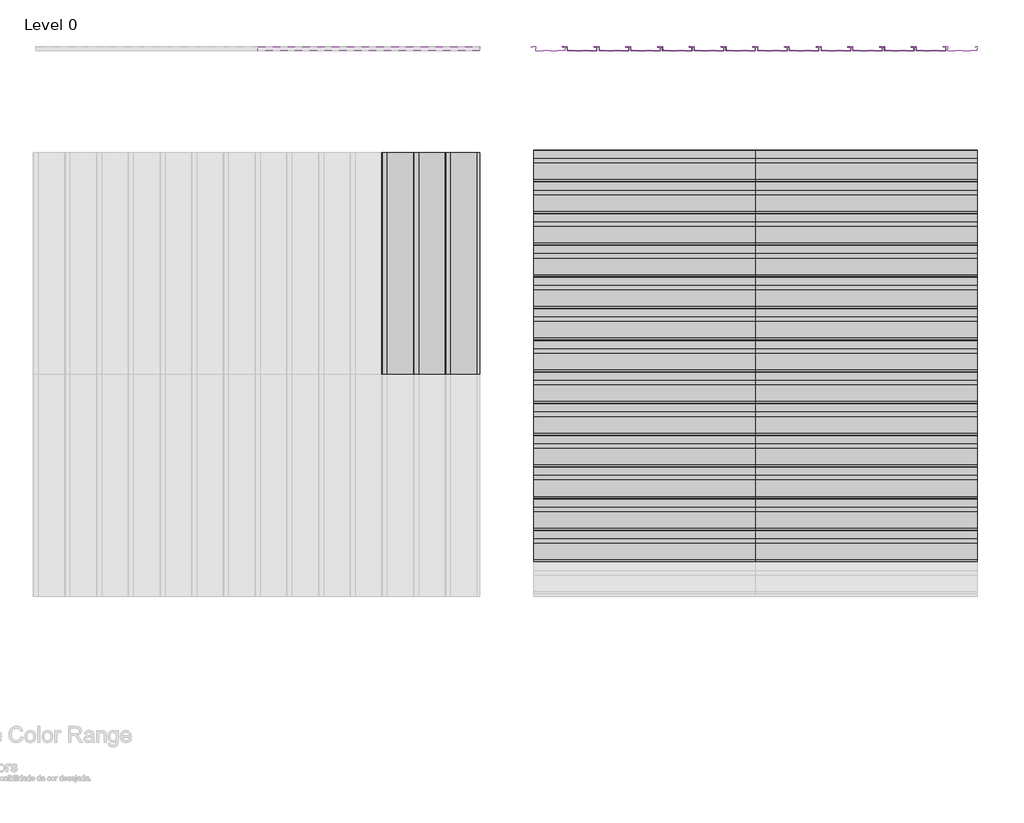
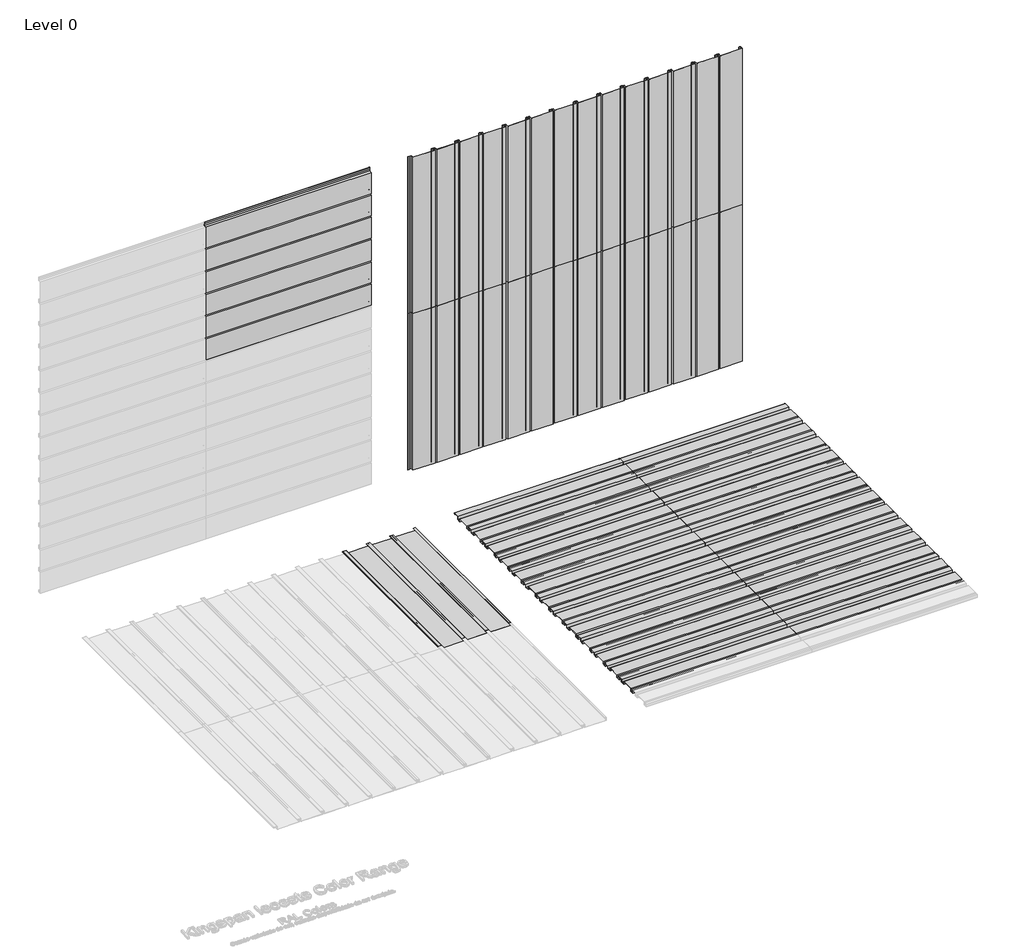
# One storey, part 2 of 2: 63 proxies.
"""IFC4 building model written with IfcOpenShell, lengths in millimetres."""

from ifc_helpers import new_model, si_unit, origin, place, context, project, spatial, transform, mapped, element, save
from components import mx4_0_standard_panel_ns_1fe548eb, mx7_0_standard_panel_ns_a6cb7541, mx7_0_standard_panel_ns_ed4f422e

model = new_model("IFC4")

# Units and contexts
model_context = context("Model", 3, world=origin())
ifc_project = project(units=[si_unit("LENGTHUNIT", "METRE", prefix="MILLI")], contexts=[model_context])

# Site, building, storey
site = spatial("IfcSite", under=ifc_project)
building = spatial("IfcBuilding", under=site)
storey = spatial("IfcBuildingStorey", under=building, Name="Level 0", Elevation=0.0)

# Proxies
placement = place(None, origin())
mx4_0_standard_panel_ns_shape = mx4_0_standard_panel_ns_1fe548eb(model_context)
element("IfcBuildingElementProxy", 1, Name="MX4.0 : Standard Panel_NS", ObjectType="MX4.0 : Standard Panel_NS", at=placement, inside=storey, context=model_context, shape_type="MappedRepresentation", body=[
    mapped(mx4_0_standard_panel_ns_shape, transform((1289.7088668, 758.3113453, 0.0), x_axis=(1.0, 0.0, 0.0), y_axis=(0.0, 1.0, 0.0), z_axis=(0.0, 0.0, 1.0))),
])
element("IfcBuildingElementProxy", 2, Name="MX4.0 : Standard Panel_NS", ObjectType="MX4.0 : Standard Panel_NS", at=placement, inside=storey, context=model_context, shape_type="MappedRepresentation", body=[
    mapped(mx4_0_standard_panel_ns_shape, transform((1289.7088668, 3158.3113453, 0.0), x_axis=(1.0, 0.0, 0.0), y_axis=(0.0, 1.0, 0.0), z_axis=(0.0, 0.0, 1.0))),
])
element("IfcBuildingElementProxy", 3, Name="MX4.0 : Standard Panel_NS", ObjectType="MX4.0 : Standard Panel_NS", at=placement, inside=storey, context=model_context, shape_type="MappedRepresentation", body=[
    mapped(mx4_0_standard_panel_ns_shape, transform((3389.7088668, 758.3113453, 0.0), x_axis=(1.0, 0.0, 0.0), y_axis=(0.0, 1.0, 0.0), z_axis=(0.0, 0.0, 1.0))),
])
element("IfcBuildingElementProxy", 4, Name="MX4.0 : Standard Panel_NS", ObjectType="MX4.0 : Standard Panel_NS", at=placement, inside=storey, context=model_context, shape_type="MappedRepresentation", body=[
    mapped(mx4_0_standard_panel_ns_shape, transform((3389.7088668, 3158.3113453, 0.0), x_axis=(1.0, 0.0, 0.0), y_axis=(0.0, 1.0, 0.0), z_axis=(0.0, 0.0, 1.0))),
])
element("IfcBuildingElementProxy", 5, Name="MX4.0 : Standard Panel_NS", ObjectType="MX4.0 : Standard Panel_NS", at=placement, inside=storey, context=model_context, shape_type="MappedRepresentation", body=[
    mapped(mx4_0_standard_panel_ns_shape, transform((1289.7088668, 2258.3113453, 0.0), x_axis=(1.0, 0.0, 0.0), y_axis=(0.0, 1.0, 0.0), z_axis=(0.0, 0.0, 1.0))),
])
element("IfcBuildingElementProxy", 6, Name="MX4.0 : Standard Panel_NS", ObjectType="MX4.0 : Standard Panel_NS", at=placement, inside=storey, context=model_context, shape_type="MappedRepresentation", body=[
    mapped(mx4_0_standard_panel_ns_shape, transform((3389.7088668, 2258.3113453, 0.0), x_axis=(1.0, 0.0, 0.0), y_axis=(0.0, 1.0, 0.0), z_axis=(0.0, 0.0, 1.0))),
])
element("IfcBuildingElementProxy", 7, Name="MX4.0 : Standard Panel_NS", ObjectType="MX4.0 : Standard Panel_NS", at=placement, inside=storey, context=model_context, shape_type="MappedRepresentation", body=[
    mapped(mx4_0_standard_panel_ns_shape, transform((1289.7088668, 158.3113453, 0.0), x_axis=(1.0, 0.0, 0.0), y_axis=(0.0, 1.0, 0.0), z_axis=(0.0, 0.0, 1.0))),
])
element("IfcBuildingElementProxy", 8, Name="MX4.0 : Standard Panel_NS", ObjectType="MX4.0 : Standard Panel_NS", at=placement, inside=storey, context=model_context, shape_type="MappedRepresentation", body=[
    mapped(mx4_0_standard_panel_ns_shape, transform((1289.7088668, 2558.3113453, 0.0), x_axis=(1.0, 0.0, 0.0), y_axis=(0.0, 1.0, 0.0), z_axis=(0.0, 0.0, 1.0))),
])
element("IfcBuildingElementProxy", 9, Name="MX4.0 : Standard Panel_NS", ObjectType="MX4.0 : Standard Panel_NS", at=placement, inside=storey, context=model_context, shape_type="MappedRepresentation", body=[
    mapped(mx4_0_standard_panel_ns_shape, transform((3389.7088668, 158.3113453, 0.0), x_axis=(1.0, 0.0, 0.0), y_axis=(0.0, 1.0, 0.0), z_axis=(0.0, 0.0, 1.0))),
])
element("IfcBuildingElementProxy", 10, Name="MX4.0 : Standard Panel_NS", ObjectType="MX4.0 : Standard Panel_NS", at=placement, inside=storey, context=model_context, shape_type="MappedRepresentation", body=[
    mapped(mx4_0_standard_panel_ns_shape, transform((3389.7088668, 2558.3113453, 0.0), x_axis=(1.0, 0.0, 0.0), y_axis=(0.0, 1.0, 0.0), z_axis=(0.0, 0.0, 1.0))),
])
element("IfcBuildingElementProxy", 11, Name="MX4.0 : Standard Panel_NS", ObjectType="MX4.0 : Standard Panel_NS", at=placement, inside=storey, context=model_context, shape_type="MappedRepresentation", body=[
    mapped(mx4_0_standard_panel_ns_shape, transform((1289.7088668, 458.3113453, 0.0), x_axis=(1.0, 0.0, 0.0), y_axis=(0.0, 1.0, 0.0), z_axis=(0.0, 0.0, 1.0))),
])
element("IfcBuildingElementProxy", 12, Name="MX4.0 : Standard Panel_NS", ObjectType="MX4.0 : Standard Panel_NS", at=placement, inside=storey, context=model_context, shape_type="MappedRepresentation", body=[
    mapped(mx4_0_standard_panel_ns_shape, transform((1289.7088668, 2858.3113453, 0.0), x_axis=(1.0, 0.0, 0.0), y_axis=(0.0, 1.0, 0.0), z_axis=(0.0, 0.0, 1.0))),
])
element("IfcBuildingElementProxy", 13, Name="MX4.0 : Standard Panel_NS", ObjectType="MX4.0 : Standard Panel_NS", at=placement, inside=storey, context=model_context, shape_type="MappedRepresentation", body=[
    mapped(mx4_0_standard_panel_ns_shape, transform((3389.7088668, 458.3113453, 0.0), x_axis=(1.0, 0.0, 0.0), y_axis=(0.0, 1.0, 0.0), z_axis=(0.0, 0.0, 1.0))),
])
element("IfcBuildingElementProxy", 14, Name="MX4.0 : Standard Panel_NS", ObjectType="MX4.0 : Standard Panel_NS", at=placement, inside=storey, context=model_context, shape_type="MappedRepresentation", body=[
    mapped(mx4_0_standard_panel_ns_shape, transform((3389.7088668, 2858.3113453, 0.0), x_axis=(1.0, 0.0, 0.0), y_axis=(0.0, 1.0, 0.0), z_axis=(0.0, 0.0, 1.0))),
])
element("IfcBuildingElementProxy", 15, Name="MX4.0 : Standard Panel_NS", ObjectType="MX4.0 : Standard Panel_NS", at=placement, inside=storey, context=model_context, shape_type="MappedRepresentation", body=[
    mapped(mx4_0_standard_panel_ns_shape, transform((1289.7088668, 1058.3113453, 0.0), x_axis=(1.0, 0.0, 0.0), y_axis=(0.0, 1.0, 0.0), z_axis=(0.0, 0.0, 1.0))),
])
element("IfcBuildingElementProxy", 16, Name="MX4.0 : Standard Panel_NS", ObjectType="MX4.0 : Standard Panel_NS", at=placement, inside=storey, context=model_context, shape_type="MappedRepresentation", body=[
    mapped(mx4_0_standard_panel_ns_shape, transform((1289.7088668, 3458.3113453, 0.0), x_axis=(1.0, 0.0, 0.0), y_axis=(0.0, 1.0, 0.0), z_axis=(0.0, 0.0, 1.0))),
])
element("IfcBuildingElementProxy", 17, Name="MX4.0 : Standard Panel_NS", ObjectType="MX4.0 : Standard Panel_NS", at=placement, inside=storey, context=model_context, shape_type="MappedRepresentation", body=[
    mapped(mx4_0_standard_panel_ns_shape, transform((3389.7088668, 1058.3113453, 0.0), x_axis=(1.0, 0.0, 0.0), y_axis=(0.0, 1.0, 0.0), z_axis=(0.0, 0.0, 1.0))),
])
element("IfcBuildingElementProxy", 18, Name="MX4.0 : Standard Panel_NS", ObjectType="MX4.0 : Standard Panel_NS", at=placement, inside=storey, context=model_context, shape_type="MappedRepresentation", body=[
    mapped(mx4_0_standard_panel_ns_shape, transform((3389.7088668, 3458.3113453, 0.0), x_axis=(1.0, 0.0, 0.0), y_axis=(0.0, 1.0, 0.0), z_axis=(0.0, 0.0, 1.0))),
])
element("IfcBuildingElementProxy", 19, Name="MX4.0 : Standard Panel_NS", ObjectType="MX4.0 : Standard Panel_NS", at=placement, inside=storey, context=model_context, shape_type="MappedRepresentation", body=[
    mapped(mx4_0_standard_panel_ns_shape, transform((1289.7088668, 1358.3113453, 0.0), x_axis=(1.0, 0.0, 0.0), y_axis=(0.0, 1.0, 0.0), z_axis=(0.0, 0.0, 1.0))),
])
element("IfcBuildingElementProxy", 20, Name="MX4.0 : Standard Panel_NS", ObjectType="MX4.0 : Standard Panel_NS", at=placement, inside=storey, context=model_context, shape_type="MappedRepresentation", body=[
    mapped(mx4_0_standard_panel_ns_shape, transform((1289.7088668, 3758.3113453, 0.0), x_axis=(1.0, 0.0, 0.0), y_axis=(0.0, 1.0, 0.0), z_axis=(0.0, 0.0, 1.0))),
])
element("IfcBuildingElementProxy", 21, Name="MX4.0 : Standard Panel_NS", ObjectType="MX4.0 : Standard Panel_NS", at=placement, inside=storey, context=model_context, shape_type="MappedRepresentation", body=[
    mapped(mx4_0_standard_panel_ns_shape, transform((3389.7088668, 1358.3113453, 0.0), x_axis=(1.0, 0.0, 0.0), y_axis=(0.0, 1.0, 0.0), z_axis=(0.0, 0.0, 1.0))),
])
element("IfcBuildingElementProxy", 22, Name="MX4.0 : Standard Panel_NS", ObjectType="MX4.0 : Standard Panel_NS", at=placement, inside=storey, context=model_context, shape_type="MappedRepresentation", body=[
    mapped(mx4_0_standard_panel_ns_shape, transform((3389.7088668, 3758.3113453, 0.0), x_axis=(1.0, 0.0, 0.0), y_axis=(0.0, 1.0, 0.0), z_axis=(0.0, 0.0, 1.0))),
])
element("IfcBuildingElementProxy", 23, Name="MX4.0 : Standard Panel_NS", ObjectType="MX4.0 : Standard Panel_NS", at=placement, inside=storey, context=model_context, shape_type="MappedRepresentation", body=[
    mapped(mx4_0_standard_panel_ns_shape, transform((1289.7088668, 1658.3113453, 0.0), x_axis=(1.0, 0.0, 0.0), y_axis=(0.0, 1.0, 0.0), z_axis=(0.0, 0.0, 1.0))),
])
element("IfcBuildingElementProxy", 24, Name="MX4.0 : Standard Panel_NS", ObjectType="MX4.0 : Standard Panel_NS", at=placement, inside=storey, context=model_context, shape_type="MappedRepresentation", body=[
    mapped(mx4_0_standard_panel_ns_shape, transform((3389.7088668, 1658.3113453, 0.0), x_axis=(1.0, 0.0, 0.0), y_axis=(0.0, 1.0, 0.0), z_axis=(0.0, 0.0, 1.0))),
])
element("IfcBuildingElementProxy", 25, Name="MX4.0 : Standard Panel_NS", ObjectType="MX4.0 : Standard Panel_NS", at=placement, inside=storey, context=model_context, shape_type="MappedRepresentation", body=[
    mapped(mx4_0_standard_panel_ns_shape, transform((1289.7088668, 1958.3113453, 0.0), x_axis=(1.0, 0.0, 0.0), y_axis=(0.0, 1.0, 0.0), z_axis=(0.0, 0.0, 1.0))),
])
element("IfcBuildingElementProxy", 26, Name="MX4.0 : Standard Panel_NS", ObjectType="MX4.0 : Standard Panel_NS", at=placement, inside=storey, context=model_context, shape_type="MappedRepresentation", body=[
    mapped(mx4_0_standard_panel_ns_shape, transform((3389.7088668, 1958.3113453, 0.0), x_axis=(1.0, 0.0, 0.0), y_axis=(0.0, 1.0, 0.0), z_axis=(0.0, 0.0, 1.0))),
])
mx7_0_standard_panel_ns_shape = mx7_0_standard_panel_ns_a6cb7541(model_context)
element("IfcBuildingElementProxy", 27, Name="MX7.0 : Standard Panel_NS", ObjectType="MX7.0 : Standard Panel_NS", at=placement, inside=storey, context=model_context, shape_type="MappedRepresentation", body=[
    mapped(mx7_0_standard_panel_ns_shape, transform((1889.7088665, 5063.0274074, 0.0), x_axis=(0.0, 0.0, 1.0), y_axis=(-1.0, 0.0, 0.0), z_axis=(0.0, -1.0, 0.0))),
])
element("IfcBuildingElementProxy", 28, Name="MX7.0 : Standard Panel_NS", ObjectType="MX7.0 : Standard Panel_NS", at=placement, inside=storey, context=model_context, shape_type="MappedRepresentation", body=[
    mapped(mx7_0_standard_panel_ns_shape, transform((1889.7088665, 5063.0274074, 2100.0), x_axis=(0.0, 0.0, 1.0), y_axis=(-1.0, 0.0, 0.0), z_axis=(0.0, -1.0, 0.0))),
])
element("IfcBuildingElementProxy", 29, Name="MX7.0 : Standard Panel_NS", ObjectType="MX7.0 : Standard Panel_NS", at=placement, inside=storey, context=model_context, shape_type="MappedRepresentation", body=[
    mapped(mx7_0_standard_panel_ns_shape, transform((-1317.7637295, 5063.0274074, 3600.0), x_axis=(1.0, 0.0, 0.0), y_axis=(0.0, 0.0, 1.0), z_axis=(0.0, -1.0, 0.0))),
])
element("IfcBuildingElementProxy", 30, Name="MX7.0 : Standard Panel_NS", ObjectType="MX7.0 : Standard Panel_NS", at=placement, inside=storey, context=model_context, shape_type="MappedRepresentation", body=[
    mapped(mx7_0_standard_panel_ns_shape, transform((4289.7088665, 5063.0274074, 0.0), x_axis=(0.0, 0.0, 1.0), y_axis=(-1.0, 0.0, 0.0), z_axis=(0.0, -1.0, 0.0))),
])
element("IfcBuildingElementProxy", 31, Name="MX7.0 : Standard Panel_NS", ObjectType="MX7.0 : Standard Panel_NS", at=placement, inside=storey, context=model_context, shape_type="MappedRepresentation", body=[
    mapped(mx7_0_standard_panel_ns_shape, transform((4289.7088665, 5063.0274074, 2100.0), x_axis=(0.0, 0.0, 1.0), y_axis=(-1.0, 0.0, 0.0), z_axis=(0.0, -1.0, 0.0))),
])
element("IfcBuildingElementProxy", 32, Name="MX7.0 : Standard Panel_NS", ObjectType="MX7.0 : Standard Panel_NS", at=placement, inside=storey, context=model_context, shape_type="MappedRepresentation", body=[
    mapped(mx7_0_standard_panel_ns_shape, transform((3089.7088665, 5063.0274074, 0.0), x_axis=(0.0, 0.0, 1.0), y_axis=(-1.0, 0.0, 0.0), z_axis=(0.0, -1.0, 0.0))),
])
element("IfcBuildingElementProxy", 33, Name="MX7.0 : Standard Panel_NS", ObjectType="MX7.0 : Standard Panel_NS", at=placement, inside=storey, context=model_context, shape_type="MappedRepresentation", body=[
    mapped(mx7_0_standard_panel_ns_shape, transform((3089.7088665, 5063.0274074, 2100.0), x_axis=(0.0, 0.0, 1.0), y_axis=(-1.0, 0.0, 0.0), z_axis=(0.0, -1.0, 0.0))),
])
element("IfcBuildingElementProxy", 34, Name="MX7.0 : Standard Panel_NS", ObjectType="MX7.0 : Standard Panel_NS", at=placement, inside=storey, context=model_context, shape_type="MappedRepresentation", body=[
    mapped(mx7_0_standard_panel_ns_shape, transform((-1317.7637295, 5063.0274074, 2400.0), x_axis=(1.0, 0.0, 0.0), y_axis=(0.0, 0.0, 1.0), z_axis=(0.0, -1.0, 0.0))),
])
element("IfcBuildingElementProxy", 35, Name="MX7.0 : Standard Panel_NS", ObjectType="MX7.0 : Standard Panel_NS", at=placement, inside=storey, context=model_context, shape_type="MappedRepresentation", body=[
    mapped(mx7_0_standard_panel_ns_shape, transform((5489.7088666, 5063.0274074, 0.0), x_axis=(0.0, 0.0, 1.0), y_axis=(-1.0, 0.0, 0.0), z_axis=(0.0, -1.0, 0.0))),
])
element("IfcBuildingElementProxy", 36, Name="MX7.0 : Standard Panel_NS", ObjectType="MX7.0 : Standard Panel_NS", at=placement, inside=storey, context=model_context, shape_type="MappedRepresentation", body=[
    mapped(mx7_0_standard_panel_ns_shape, transform((5489.7088666, 5063.0274074, 2100.0), x_axis=(0.0, 0.0, 1.0), y_axis=(-1.0, 0.0, 0.0), z_axis=(0.0, -1.0, 0.0))),
])
element("IfcBuildingElementProxy", 37, Name="MX7.0 : Standard Panel_NS", ObjectType="MX7.0 : Standard Panel_NS", at=placement, inside=storey, context=model_context, shape_type="MappedRepresentation", body=[
    mapped(mx7_0_standard_panel_ns_shape, transform((2789.7088665, 5063.0274074, 0.0), x_axis=(0.0, 0.0, 1.0), y_axis=(-1.0, 0.0, 0.0), z_axis=(0.0, -1.0, 0.0))),
])
element("IfcBuildingElementProxy", 38, Name="MX7.0 : Standard Panel_NS", ObjectType="MX7.0 : Standard Panel_NS", at=placement, inside=storey, context=model_context, shape_type="MappedRepresentation", body=[
    mapped(mx7_0_standard_panel_ns_shape, transform((2789.7088665, 5063.0274074, 2100.0), x_axis=(0.0, 0.0, 1.0), y_axis=(-1.0, 0.0, 0.0), z_axis=(0.0, -1.0, 0.0))),
])
element("IfcBuildingElementProxy", 39, Name="MX7.0 : Standard Panel_NS", ObjectType="MX7.0 : Standard Panel_NS", at=placement, inside=storey, context=model_context, shape_type="MappedRepresentation", body=[
    mapped(mx7_0_standard_panel_ns_shape, transform((-1317.7637295, 5063.0274074, 2700.0), x_axis=(1.0, 0.0, 0.0), y_axis=(0.0, 0.0, 1.0), z_axis=(0.0, -1.0, 0.0))),
])
element("IfcBuildingElementProxy", 40, Name="MX7.0 : Standard Panel_NS", ObjectType="MX7.0 : Standard Panel_NS", at=placement, inside=storey, context=model_context, shape_type="MappedRepresentation", body=[
    mapped(mx7_0_standard_panel_ns_shape, transform((5189.7088665, 5063.0274074, 0.0), x_axis=(0.0, 0.0, 1.0), y_axis=(-1.0, 0.0, 0.0), z_axis=(0.0, -1.0, 0.0))),
])
element("IfcBuildingElementProxy", 41, Name="MX7.0 : Standard Panel_NS", ObjectType="MX7.0 : Standard Panel_NS", at=placement, inside=storey, context=model_context, shape_type="MappedRepresentation", body=[
    mapped(mx7_0_standard_panel_ns_shape, transform((5189.7088665, 5063.0274074, 2100.0), x_axis=(0.0, 0.0, 1.0), y_axis=(-1.0, 0.0, 0.0), z_axis=(0.0, -1.0, 0.0))),
])
element("IfcBuildingElementProxy", 42, Name="MX7.0 : Standard Panel_NS", ObjectType="MX7.0 : Standard Panel_NS", at=placement, inside=storey, context=model_context, shape_type="MappedRepresentation", body=[
    mapped(mx7_0_standard_panel_ns_shape, transform((2489.7088665, 5063.0274074, 0.0), x_axis=(0.0, 0.0, 1.0), y_axis=(-1.0, 0.0, 0.0), z_axis=(0.0, -1.0, 0.0))),
])
element("IfcBuildingElementProxy", 43, Name="MX7.0 : Standard Panel_NS", ObjectType="MX7.0 : Standard Panel_NS", at=placement, inside=storey, context=model_context, shape_type="MappedRepresentation", body=[
    mapped(mx7_0_standard_panel_ns_shape, transform((2489.7088665, 5063.0274074, 2100.0), x_axis=(0.0, 0.0, 1.0), y_axis=(-1.0, 0.0, 0.0), z_axis=(0.0, -1.0, 0.0))),
])
element("IfcBuildingElementProxy", 44, Name="MX7.0 : Standard Panel_NS", ObjectType="MX7.0 : Standard Panel_NS", at=placement, inside=storey, context=model_context, shape_type="MappedRepresentation", body=[
    mapped(mx7_0_standard_panel_ns_shape, transform((-1317.7637295, 5063.0274074, 3000.0), x_axis=(1.0, 0.0, 0.0), y_axis=(0.0, 0.0, 1.0), z_axis=(0.0, -1.0, 0.0))),
])
element("IfcBuildingElementProxy", 45, Name="MX7.0 : Standard Panel_NS", ObjectType="MX7.0 : Standard Panel_NS", at=placement, inside=storey, context=model_context, shape_type="MappedRepresentation", body=[
    mapped(mx7_0_standard_panel_ns_shape, transform((4889.7088665, 5063.0274074, 0.0), x_axis=(0.0, 0.0, 1.0), y_axis=(-1.0, 0.0, 0.0), z_axis=(0.0, -1.0, 0.0))),
])
element("IfcBuildingElementProxy", 46, Name="MX7.0 : Standard Panel_NS", ObjectType="MX7.0 : Standard Panel_NS", at=placement, inside=storey, context=model_context, shape_type="MappedRepresentation", body=[
    mapped(mx7_0_standard_panel_ns_shape, transform((4889.7088665, 5063.0274074, 2100.0), x_axis=(0.0, 0.0, 1.0), y_axis=(-1.0, 0.0, 0.0), z_axis=(0.0, -1.0, 0.0))),
])
element("IfcBuildingElementProxy", 47, Name="MX7.0 : Standard Panel_NS", ObjectType="MX7.0 : Standard Panel_NS", at=placement, inside=storey, context=model_context, shape_type="MappedRepresentation", body=[
    mapped(mx7_0_standard_panel_ns_shape, transform((2189.7088665, 5063.0274074, 0.0), x_axis=(0.0, 0.0, 1.0), y_axis=(-1.0, 0.0, 0.0), z_axis=(0.0, -1.0, 0.0))),
])
element("IfcBuildingElementProxy", 48, Name="MX7.0 : Standard Panel_NS", ObjectType="MX7.0 : Standard Panel_NS", at=placement, inside=storey, context=model_context, shape_type="MappedRepresentation", body=[
    mapped(mx7_0_standard_panel_ns_shape, transform((2189.7088665, 5063.0274074, 2100.0), x_axis=(0.0, 0.0, 1.0), y_axis=(-1.0, 0.0, 0.0), z_axis=(0.0, -1.0, 0.0))),
])
element("IfcBuildingElementProxy", 49, Name="MX7.0 : Standard Panel_NS", ObjectType="MX7.0 : Standard Panel_NS", at=placement, inside=storey, context=model_context, shape_type="MappedRepresentation", body=[
    mapped(mx7_0_standard_panel_ns_shape, transform((-1317.7637295, 5063.0274074, 3300.0), x_axis=(1.0, 0.0, 0.0), y_axis=(0.0, 0.0, 1.0), z_axis=(0.0, -1.0, 0.0))),
])
element("IfcBuildingElementProxy", 50, Name="MX7.0 : Standard Panel_NS", ObjectType="MX7.0 : Standard Panel_NS", at=placement, inside=storey, context=model_context, shape_type="MappedRepresentation", body=[
    mapped(mx7_0_standard_panel_ns_shape, transform((4589.7088665, 5063.0274074, 0.0), x_axis=(0.0, 0.0, 1.0), y_axis=(-1.0, 0.0, 0.0), z_axis=(0.0, -1.0, 0.0))),
])
element("IfcBuildingElementProxy", 51, Name="MX7.0 : Standard Panel_NS", ObjectType="MX7.0 : Standard Panel_NS", at=placement, inside=storey, context=model_context, shape_type="MappedRepresentation", body=[
    mapped(mx7_0_standard_panel_ns_shape, transform((4589.7088665, 5063.0274074, 2100.0), x_axis=(0.0, 0.0, 1.0), y_axis=(-1.0, 0.0, 0.0), z_axis=(0.0, -1.0, 0.0))),
])
element("IfcBuildingElementProxy", 52, Name="MX7.0 : Standard Panel_NS", ObjectType="MX7.0 : Standard Panel_NS", at=placement, inside=storey, context=model_context, shape_type="MappedRepresentation", body=[
    mapped(mx7_0_standard_panel_ns_shape, transform((1589.7088666, 5063.0274074, 0.0), x_axis=(0.0, 0.0, 1.0), y_axis=(-1.0, 0.0, 0.0), z_axis=(0.0, -1.0, 0.0))),
])
element("IfcBuildingElementProxy", 53, Name="MX7.0 : Standard Panel_NS", ObjectType="MX7.0 : Standard Panel_NS", at=placement, inside=storey, context=model_context, shape_type="MappedRepresentation", body=[
    mapped(mx7_0_standard_panel_ns_shape, transform((1589.7088666, 5063.0274074, 2100.0), x_axis=(0.0, 0.0, 1.0), y_axis=(-1.0, 0.0, 0.0), z_axis=(0.0, -1.0, 0.0))),
])
element("IfcBuildingElementProxy", 54, Name="MX7.0 : Standard Panel_NS", ObjectType="MX7.0 : Standard Panel_NS", at=placement, inside=storey, context=model_context, shape_type="MappedRepresentation", body=[
    mapped(mx7_0_standard_panel_ns_shape, transform((-1317.7637295, 5063.0274074, 3900.0), x_axis=(1.0, 0.0, 0.0), y_axis=(0.0, 0.0, 1.0), z_axis=(0.0, -1.0, 0.0))),
])
element("IfcBuildingElementProxy", 55, Name="MX7.0 : Standard Panel_NS", ObjectType="MX7.0 : Standard Panel_NS", at=placement, inside=storey, context=model_context, shape_type="MappedRepresentation", body=[
    mapped(mx7_0_standard_panel_ns_shape, transform((3989.7088665, 5063.0274074, 0.0), x_axis=(0.0, 0.0, 1.0), y_axis=(-1.0, 0.0, 0.0), z_axis=(0.0, -1.0, 0.0))),
])
element("IfcBuildingElementProxy", 56, Name="MX7.0 : Standard Panel_NS", ObjectType="MX7.0 : Standard Panel_NS", at=placement, inside=storey, context=model_context, shape_type="MappedRepresentation", body=[
    mapped(mx7_0_standard_panel_ns_shape, transform((3989.7088665, 5063.0274074, 2100.0), x_axis=(0.0, 0.0, 1.0), y_axis=(-1.0, 0.0, 0.0), z_axis=(0.0, -1.0, 0.0))),
])
element("IfcBuildingElementProxy", 57, Name="MX7.0 : Standard Panel_NS", ObjectType="MX7.0 : Standard Panel_NS", at=placement, inside=storey, context=model_context, shape_type="MappedRepresentation", body=[
    mapped(mx7_0_standard_panel_ns_shape, transform((3689.7088665, 5063.0274074, 0.0), x_axis=(0.0, 0.0, 1.0), y_axis=(-1.0, 0.0, 0.0), z_axis=(0.0, -1.0, 0.0))),
])
element("IfcBuildingElementProxy", 58, Name="MX7.0 : Standard Panel_NS", ObjectType="MX7.0 : Standard Panel_NS", at=placement, inside=storey, context=model_context, shape_type="MappedRepresentation", body=[
    mapped(mx7_0_standard_panel_ns_shape, transform((3689.7088665, 5063.0274074, 2100.0), x_axis=(0.0, 0.0, 1.0), y_axis=(-1.0, 0.0, 0.0), z_axis=(0.0, -1.0, 0.0))),
])
element("IfcBuildingElementProxy", 59, Name="MX7.0 : Standard Panel_NS", ObjectType="MX7.0 : Standard Panel_NS", at=placement, inside=storey, context=model_context, shape_type="MappedRepresentation", body=[
    mapped(mx7_0_standard_panel_ns_shape, transform((3389.7088665, 5063.0274074, 0.0), x_axis=(0.0, 0.0, 1.0), y_axis=(-1.0, 0.0, 0.0), z_axis=(0.0, -1.0, 0.0))),
])
element("IfcBuildingElementProxy", 60, Name="MX7.0 : Standard Panel_NS", ObjectType="MX7.0 : Standard Panel_NS", at=placement, inside=storey, context=model_context, shape_type="MappedRepresentation", body=[
    mapped(mx7_0_standard_panel_ns_shape, transform((3389.7088665, 5063.0274074, 2100.0), x_axis=(0.0, 0.0, 1.0), y_axis=(-1.0, 0.0, 0.0), z_axis=(0.0, -1.0, 0.0))),
])
mx7_0_standard_panel_ns_2_shape = mx7_0_standard_panel_ns_ed4f422e(model_context)
element("IfcBuildingElementProxy", 61, Name="MX7.0 : Standard Panel_NS", ObjectType="MX7.0 : Standard Panel_NS", at=placement, inside=storey, context=model_context, shape_type="MappedRepresentation", body=[
    mapped(mx7_0_standard_panel_ns_2_shape, transform((782.2362705, 1958.3113453, 0.0), x_axis=(0.0, 1.0, 0.0), y_axis=(-1.0, 0.0, 0.0), z_axis=(0.0, 0.0, 1.0))),
])
element("IfcBuildingElementProxy", 62, Name="MX7.0 : Standard Panel_NS", ObjectType="MX7.0 : Standard Panel_NS", at=placement, inside=storey, context=model_context, shape_type="MappedRepresentation", body=[
    mapped(mx7_0_standard_panel_ns_2_shape, transform((482.2362703, 1958.3113453, 0.0), x_axis=(0.0, 1.0, 0.0), y_axis=(-1.0, 0.0, 0.0), z_axis=(0.0, 0.0, 1.0))),
])
element("IfcBuildingElementProxy", 63, Name="MX7.0 : Standard Panel_NS", ObjectType="MX7.0 : Standard Panel_NS", at=placement, inside=storey, context=model_context, shape_type="MappedRepresentation", body=[
    mapped(mx7_0_standard_panel_ns_2_shape, transform((182.2362703, 1958.3113453, 0.0), x_axis=(0.0, 1.0, 0.0), y_axis=(-1.0, 0.0, 0.0), z_axis=(0.0, 0.0, 1.0))),
])

save(model, "model.ifc")
